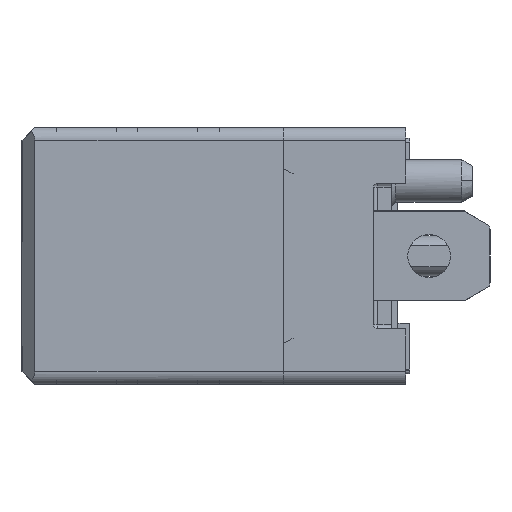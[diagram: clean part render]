
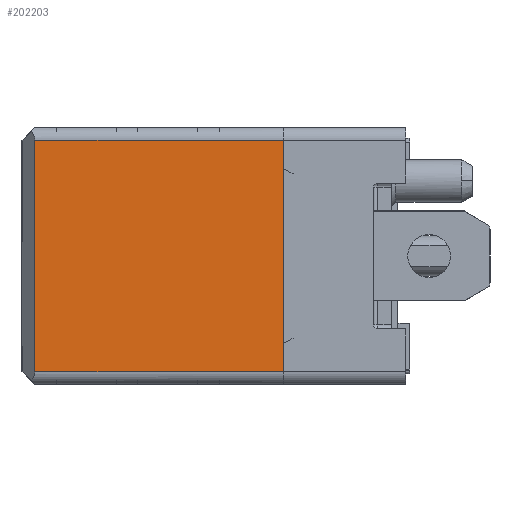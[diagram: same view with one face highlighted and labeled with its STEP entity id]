
A CAD part, left-side view. The second image highlights one B-rep face of the part: STEP entity #202203.
In plain terms, the highlighted planar face has unit normal (-1, 0, 0).
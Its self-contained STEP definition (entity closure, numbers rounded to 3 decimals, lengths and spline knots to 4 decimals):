
#60780=DIRECTION('',(0.,0.,1.));
#60781=VECTOR('',#60780,5.4);
#60782=CARTESIAN_POINT('',(-27.66,2.52,-2.7));
#60783=LINE('',#60782,#60781);
#60808=DIRECTION('',(0.,-1.,0.));
#60809=VECTOR('',#60808,5.8);
#60810=CARTESIAN_POINT('',(-27.66,8.32,-2.7));
#60811=LINE('',#60810,#60809);
#60825=DIRECTION('',(0.,0.,-1.));
#60826=VECTOR('',#60825,5.4);
#60827=CARTESIAN_POINT('',(-27.66,8.32,2.7));
#60828=LINE('',#60827,#60826);
#61586=DIRECTION('',(0.,1.,0.));
#61587=VECTOR('',#61586,5.8);
#61588=CARTESIAN_POINT('',(-27.66,2.52,2.7));
#61589=LINE('',#61588,#61587);
#104076=CARTESIAN_POINT('',(-27.66,2.52,-2.7));
#104077=CARTESIAN_POINT('',(-27.66,2.52,2.7));
#104078=VERTEX_POINT('',#104076);
#104079=VERTEX_POINT('',#104077);
#104088=CARTESIAN_POINT('',(-27.66,8.32,2.7));
#104089=VERTEX_POINT('',#104088);
#104090=CARTESIAN_POINT('',(-27.66,8.32,-2.7));
#104091=VERTEX_POINT('',#104090);
#202189=CARTESIAN_POINT('',(-27.66,5.42,0.));
#202190=DIRECTION('',(1.,0.,0.));
#202191=DIRECTION('',(0.,0.,-1.));
#202192=AXIS2_PLACEMENT_3D('',#202189,#202190,#202191);
#202193=PLANE('',#202192);
#202194=ORIENTED_EDGE('',*,*,#202164,.F.);
#202196=ORIENTED_EDGE('',*,*,#202195,.F.);
#202198=ORIENTED_EDGE('',*,*,#202197,.F.);
#202200=ORIENTED_EDGE('',*,*,#202199,.F.);
#202201=EDGE_LOOP('',(#202194,#202196,#202198,#202200));
#202202=FACE_OUTER_BOUND('',#202201,.F.);
#202203=ADVANCED_FACE('',(#202202),#202193,.F.);
#202164=EDGE_CURVE('',#104078,#104079,#60783,.T.);
#202195=EDGE_CURVE('',#104091,#104078,#60811,.T.);
#202197=EDGE_CURVE('',#104089,#104091,#60828,.T.);
#202199=EDGE_CURVE('',#104079,#104089,#61589,.T.);
